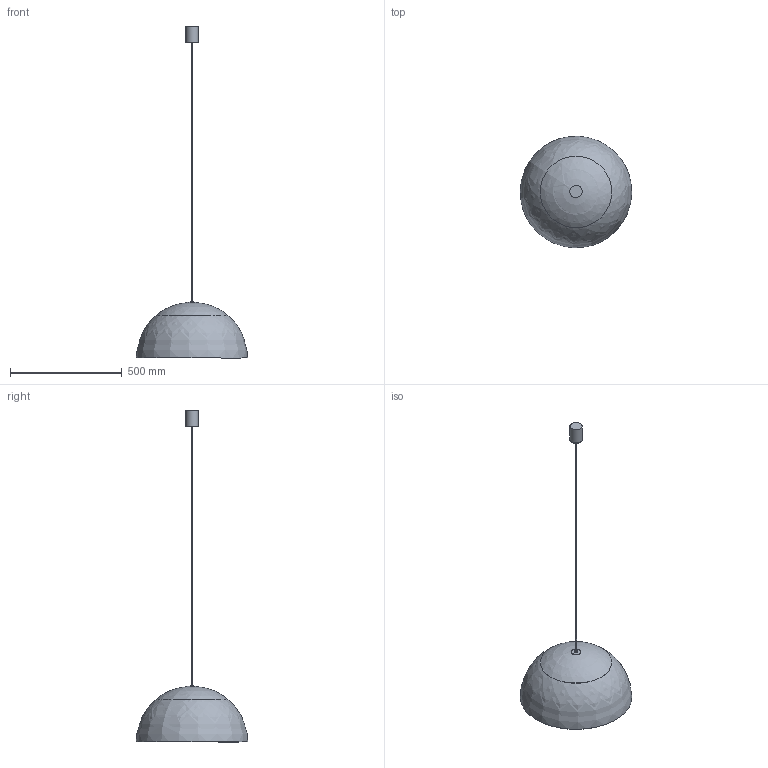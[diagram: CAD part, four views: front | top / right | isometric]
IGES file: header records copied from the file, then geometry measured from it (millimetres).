
Start section: SolidWorks IGES file using analytic representation for surfaces
Global section: file name: X:\PRODUKT\Modele 3D_WWW\_KOLEKCJE WWW\HEMISPHERE\HEMISPHERE-SUPER-L-10296-10297-10298\HEMISPHERE-SUPER-L-10296-10297-10298 .IGS; native system: SolidWorks 2021; preprocessor: SolidWorks 2021; author: gabriela.tworek; date: 221107.125726; units: millimetre
Bounding box: 499.18 x 499.18 x 1487.02 mm (x, y, z)
Surface area: 989408.4 mm2 (no closed solid volume)
Topology: 0 solids, 0 shells, 43 faces, 103 edges, 81 vertices
Faces by surface type: revolution 22, bspline 21
